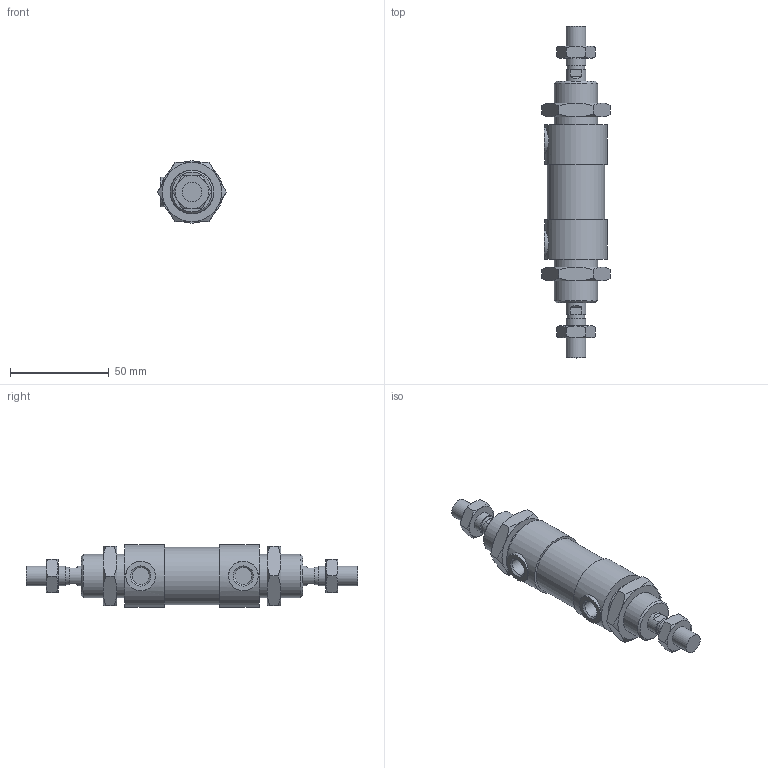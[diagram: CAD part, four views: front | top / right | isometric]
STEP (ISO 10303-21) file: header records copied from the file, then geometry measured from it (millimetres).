
FILE_DESCRIPTION((''),'2;1');
FILE_NAME('L:\Lib-3d\1200\CILINDRI\1232\1232_25_0000.stp','2006-01-05T14:35:42',('medicfa1'),(''),'Autodesk Inventor 10','Autodesk Inventor 10','');
FILE_SCHEMA(('AUTOMOTIVE_DESIGN { 1 0 10303 214 1 1 1 1 }'));
Length unit declared in the file: millimetre
Products named in the file (5): 1232_25_0000; C1232_25_0; S1232_25_0; 1200_25_05; 1200_25_06
Assembly tree (6 placements, depth 2):
  1232_25_0000
    C1232_25_0
    S1232_25_0
    1200_25_05  x2
    1200_25_06  x2
Bounding box: 34.64 x 168 x 31.5 mm (x, y, z)
Volume: 78014.6 mm3; surface area: 26326.8 mm2
Topology: 6 solids, 6 shells, 141 faces, 299 edges, 178 vertices
Faces by surface type: plane 62, cone 54, cylinder 15, bspline 10
Full cylindrical faces by diameter (mm): 8.7 x2, 8.8 x2, 10 x4, 15 x2, 22 x2, 29 x1, 31.5 x2
Entity records: 2620 total; most frequent: CARTESIAN_POINT 721, DIRECTION 390, ORIENTED_EDGE 324, AXIS2_PLACEMENT_3D 177, EDGE_CURVE 162, EDGE_LOOP 136, VERTEX_POINT 110, FACE_OUTER_BOUND 95
